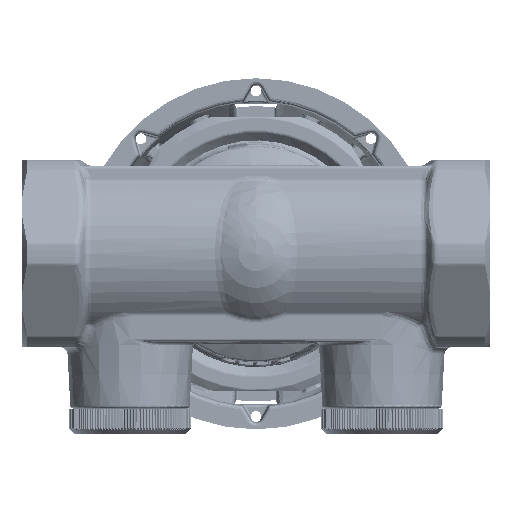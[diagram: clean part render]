
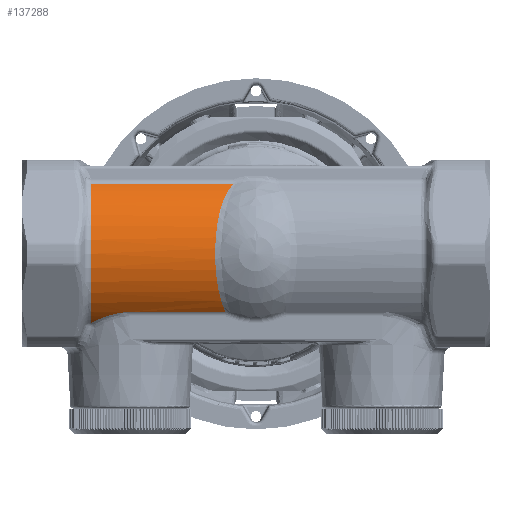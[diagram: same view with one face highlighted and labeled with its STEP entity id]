
A CAD part, front view. The second image highlights one B-rep face of the part: STEP entity #137288.
In plain terms, the highlighted cylindrical face has radius 12.25 mm (diameter 24.5 mm), a partial arc.
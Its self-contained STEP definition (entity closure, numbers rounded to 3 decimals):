
#9364=CYLINDRICAL_SURFACE('',#151477,12.25);
#24089=FACE_OUTER_BOUND('',#32060,.T.);
#32060=EDGE_LOOP('',(#127703,#127704,#127705,#127706,#127707,#127708,#127709,
#127710,#127711));
#35573=B_SPLINE_CURVE_WITH_KNOTS('',3,(#311004,#311005,#311006,#311007,
#311008),.UNSPECIFIED.,.F.,.F.,(4,1,4),(-0.605,-0.259,
0.),.UNSPECIFIED.);
#35574=B_SPLINE_CURVE_WITH_KNOTS('',3,(#311016,#311017,#311018,#311019,
#311020,#311021,#311022,#311023),.UNSPECIFIED.,.F.,.F.,(4,1,1,1,1,4),(-2.967,
-2.639,-2.294,-1.604,-0.914,-0.588),
 .UNSPECIFIED.);
#35575=B_SPLINE_CURVE_WITH_KNOTS('',3,(#311029,#311030,#311031,#311032,
#311033),.UNSPECIFIED.,.F.,.F.,(4,1,4),(-0.536,-0.306,
0.),.UNSPECIFIED.);
#35576=B_SPLINE_CURVE_WITH_KNOTS('',3,(#311037,#311038,#311039,#311040,
#311041),.UNSPECIFIED.,.F.,.F.,(4,1,4),(-0.536,-0.23,
0.),.UNSPECIFIED.);
#42743=CIRCLE('',#151478,12.25);
#42744=CIRCLE('',#151479,12.25);
#42745=CIRCLE('',#151480,12.25);
#49648=LINE('',#310982,#56138);
#49649=LINE('',#311025,#56139);
#56138=VECTOR('',#186350,10.);
#56139=VECTOR('',#186361,10.);
#68383=VERTEX_POINT('',#310970);
#68385=VERTEX_POINT('',#310979);
#68386=VERTEX_POINT('',#311003);
#68388=VERTEX_POINT('',#311015);
#68389=VERTEX_POINT('',#311024);
#68390=VERTEX_POINT('',#311026);
#68391=VERTEX_POINT('',#311028);
#68392=VERTEX_POINT('',#311034);
#68393=VERTEX_POINT('',#311036);
#88246=EDGE_CURVE('',#68383,#68385,#49648,.T.);
#88247=EDGE_CURVE('',#68385,#68386,#35573,.T.);
#88251=EDGE_CURVE('',#68388,#68383,#35574,.T.);
#88252=EDGE_CURVE('',#68389,#68388,#49649,.T.);
#88253=EDGE_CURVE('',#68390,#68389,#42743,.T.);
#88254=EDGE_CURVE('',#68391,#68390,#35575,.T.);
#88255=EDGE_CURVE('',#68392,#68391,#42744,.T.);
#88256=EDGE_CURVE('',#68393,#68392,#35576,.T.);
#88257=EDGE_CURVE('',#68386,#68393,#42745,.T.);
#127703=ORIENTED_EDGE('',*,*,#88247,.F.);
#127704=ORIENTED_EDGE('',*,*,#88246,.F.);
#127705=ORIENTED_EDGE('',*,*,#88251,.F.);
#127706=ORIENTED_EDGE('',*,*,#88252,.F.);
#127707=ORIENTED_EDGE('',*,*,#88253,.F.);
#127708=ORIENTED_EDGE('',*,*,#88254,.F.);
#127709=ORIENTED_EDGE('',*,*,#88255,.F.);
#127710=ORIENTED_EDGE('',*,*,#88256,.F.);
#127711=ORIENTED_EDGE('',*,*,#88257,.F.);
#137288=ADVANCED_FACE('',(#24089),#9364,.T.);
#151477=AXIS2_PLACEMENT_3D('',#311014,#186359,#186360);
#151478=AXIS2_PLACEMENT_3D('',#311027,#186362,#186363);
#151479=AXIS2_PLACEMENT_3D('',#311035,#186364,#186365);
#151480=AXIS2_PLACEMENT_3D('',#311042,#186366,#186367);
#186350=DIRECTION('',(-1.,0.,0.));
#186359=DIRECTION('center_axis',(1.,0.,0.));
#186360=DIRECTION('ref_axis',(0.,-1.,0.007));
#186361=DIRECTION('',(1.,0.,0.));
#186362=DIRECTION('center_axis',(-1.,0.,0.));
#186363=DIRECTION('ref_axis',(0.,-0.999,-0.048));
#186364=DIRECTION('center_axis',(-1.,0.,0.));
#186365=DIRECTION('ref_axis',(0.,-0.999,-0.048));
#186366=DIRECTION('center_axis',(-1.,0.,0.));
#186367=DIRECTION('ref_axis',(0.,-0.999,-0.048));
#310970=CARTESIAN_POINT('',(-4.239,-9.195,-8.094));
#310979=CARTESIAN_POINT('',(-17.5,-9.195,-8.094));
#310982=CARTESIAN_POINT('',(0.,-9.195,-8.094));
#311003=CARTESIAN_POINT('',(-22.923,-7.614,-9.596));
#311004=CARTESIAN_POINT('Ctrl Pts',(-17.5,-9.195,-8.094));
#311005=CARTESIAN_POINT('Ctrl Pts',(-18.652,-9.195,
-8.094));
#311006=CARTESIAN_POINT('Ctrl Pts',(-20.637,-8.838,
-8.517));
#311007=CARTESIAN_POINT('Ctrl Pts',(-22.276,-8.028,
-9.268));
#311008=CARTESIAN_POINT('Ctrl Pts',(-22.923,-7.614,
-9.596));
#311014=CARTESIAN_POINT('Origin',(0.,0.,0.));
#311015=CARTESIAN_POINT('',(-3.163,-7.483,9.699));
#311016=CARTESIAN_POINT('Ctrl Pts',(-3.163,-7.483,
9.699));
#311017=CARTESIAN_POINT('Ctrl Pts',(-3.652,-8.145,
9.187));
#311018=CARTESIAN_POINT('Ctrl Pts',(-4.422,-9.474,
7.93));
#311019=CARTESIAN_POINT('Ctrl Pts',(-5.424,-11.597,
4.732));
#311020=CARTESIAN_POINT('Ctrl Pts',(-5.861,-12.745,
-0.234));
#311021=CARTESIAN_POINT('Ctrl Pts',(-5.356,-11.433,
-5.095));
#311022=CARTESIAN_POINT('Ctrl Pts',(-4.563,-9.784,
-7.425));
#311023=CARTESIAN_POINT('Ctrl Pts',(-4.239,-9.195,
-8.094));
#311024=CARTESIAN_POINT('',(-22.923,-7.483,9.699));
#311025=CARTESIAN_POINT('',(0.,-7.483,9.699));
#311026=CARTESIAN_POINT('',(-22.923,-9.161,8.132));
#311027=CARTESIAN_POINT('Origin',(-22.923,0.,
0.));
#311028=CARTESIAN_POINT('',(-22.923,-11.623,3.868));
#311029=CARTESIAN_POINT('Ctrl Pts',(-22.923,-11.623,
3.868));
#311030=CARTESIAN_POINT('Ctrl Pts',(-22.923,-11.4,
4.54));
#311031=CARTESIAN_POINT('Ctrl Pts',(-22.975,-10.742,
6.063));
#311032=CARTESIAN_POINT('Ctrl Pts',(-22.923,-9.788,
7.426));
#311033=CARTESIAN_POINT('Ctrl Pts',(-22.923,-9.161,
8.132));
#311034=CARTESIAN_POINT('',(-22.923,-11.623,-3.868));
#311035=CARTESIAN_POINT('Origin',(-22.923,0.,
0.));
#311036=CARTESIAN_POINT('',(-22.923,-9.161,-8.132));
#311037=CARTESIAN_POINT('Ctrl Pts',(-22.923,-9.161,
-8.132));
#311038=CARTESIAN_POINT('Ctrl Pts',(-22.923,-9.788,
-7.426));
#311039=CARTESIAN_POINT('Ctrl Pts',(-22.975,-10.742,
-6.063));
#311040=CARTESIAN_POINT('Ctrl Pts',(-22.923,-11.4,
-4.54));
#311041=CARTESIAN_POINT('Ctrl Pts',(-22.923,-11.623,
-3.868));
#311042=CARTESIAN_POINT('Origin',(-22.923,0.,
0.));
